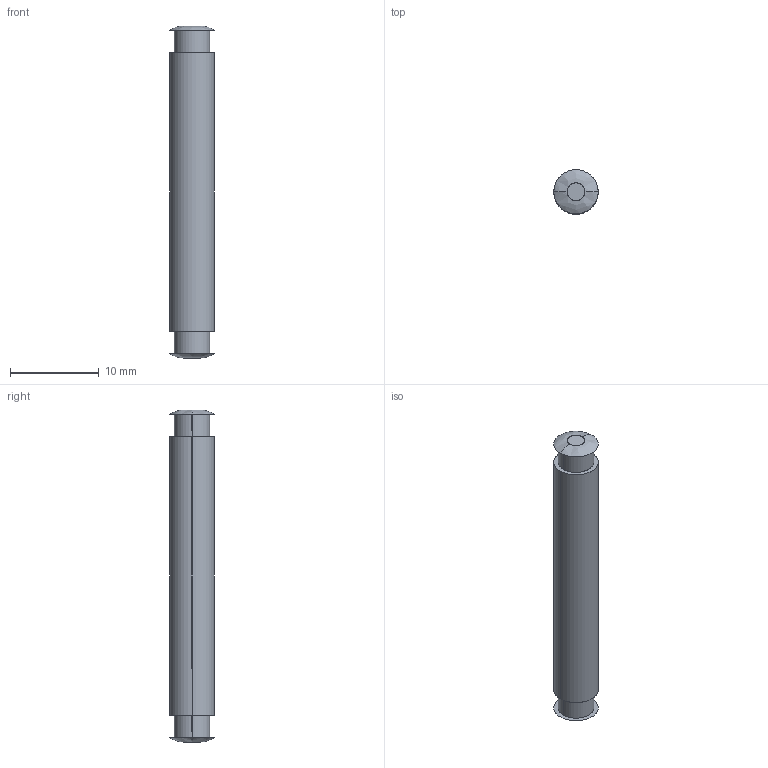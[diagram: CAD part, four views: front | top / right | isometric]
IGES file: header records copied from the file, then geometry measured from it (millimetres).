
Start section: SolidWorks IGES FILE using analytic representation for surfaces
Global section: file name: C:\Documents and Settings\lecoutey\Bureau\GO 71\47.100.00.IGS; native system: SolidWorks 2004 by SolidWorks Corporation; preprocessor: Version 5.3; author: lecoutey; date: 050329.114308; units: millimetre
Bounding box: 5 x 5 x 37.5 mm (x, y, z)
Surface area: 628.1 mm2 (no closed solid volume)
Topology: 0 solids, 0 shells, 16 faces, 360 edges, 360 vertices
Faces by surface type: bspline 10, revolution 6
